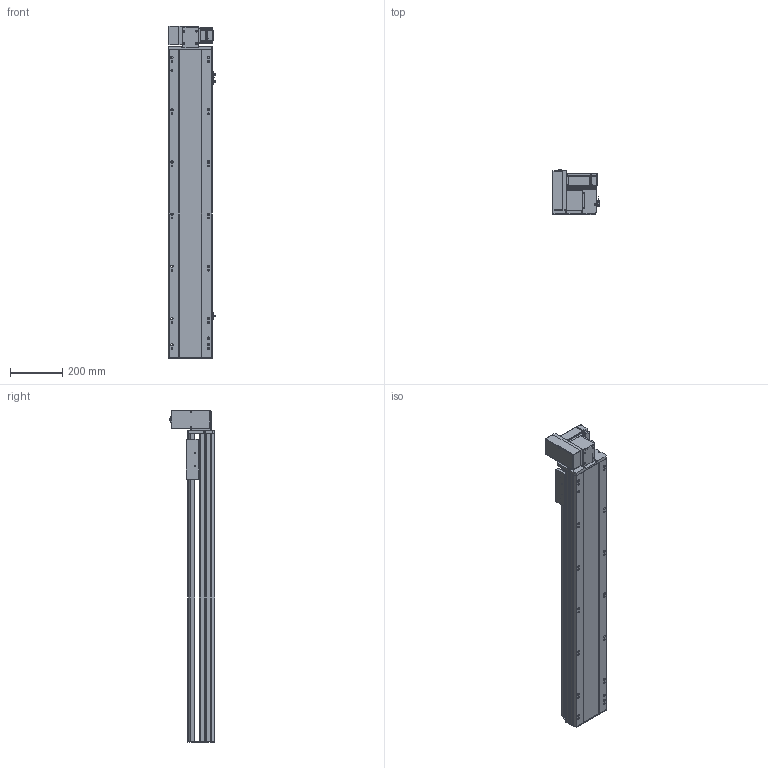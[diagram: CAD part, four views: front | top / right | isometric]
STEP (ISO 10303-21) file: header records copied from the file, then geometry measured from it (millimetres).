
FILE_DESCRIPTION (( 'STEP AP214' ), '1' );
FILE_NAME ('TPT17M-L40-900-LU-T40-C4.STEP', '2023-03-24T05:36:49', ( '' ), ( '' ), 'SwSTEP 2.0', 'SolidWorks 2020', '' );
FILE_SCHEMA (( 'AUTOMOTIVE_DESIGN' ));
Length unit declared in the file: millimetre
Products named in the file (11): 葩璃 TPT17-L-001 菁釱MZ-170-01^TPT17M-L40-LU-T40-C4; 葩璃 侂狟400W^TPT17M-L40-LU-T40-C4; 葩璃 pm-t65-672^TPT17M-L40-LU-T40-C4; hexagon head bolts-full thread gb_GB_FASTENER_BOLT_STBAB A M5X16-N; 葩璃 (2) TPT14-L-009 萇儂啣^TPT17M-L40-LU-T40-C4_400W; 葩璃 TPT17-L-007 々湍釱MZ-169x88^TPT17M-L40-LU-T40-C4_TPT17M; hexagon socket head cap screws gb_GB_FASTENER_SCREWS_HSHCS M3X6-N; hex nuts, style 1-grades ab gb_GB_FASTENER_NUT_SNAB1 M3-N; TPT17M-L40-900-LU-T40-C4; 葩璃 TPT17-L-005 賑釱MZ-170-07^TPT17M-L40-LU-T40-C4; 葩璃 TPT17-L-002 奻裔MZ-170-05^TPT17M-L40-LU-T40-C4
Assembly tree (22 placements, depth 2):
  TPT17M-L40-900-LU-T40-C4
    葩璃 TPT17-L-001 菁釱MZ-170-01^TPT17M-L40-LU-T40-C4
    葩璃 TPT17-L-002 奻裔MZ-170-05^TPT17M-L40-LU-T40-C4
    葩璃 TPT17-L-005 賑釱MZ-170-07^TPT17M-L40-LU-T40-C4
    葩璃 TPT17-L-007 々湍釱MZ-169x88^TPT17M-L40-LU-T40-C4_TPT17M
    葩璃 (2) TPT14-L-009 萇儂啣^TPT17M-L40-LU-T40-C4_400W
    葩璃 pm-t65-672^TPT17M-L40-LU-T40-C4  x3
    葩璃 侂狟400W^TPT17M-L40-LU-T40-C4
    hexagon socket head cap screws gb_GB_FASTENER_SCREWS_HSHCS M3X6-N  x6
    hex nuts, style 1-grades ab gb_GB_FASTENER_NUT_SNAB1 M3-N  x6
    hexagon head bolts-full thread gb_GB_FASTENER_BOLT_STBAB A M5X16-N
Bounding box: 183.7 x 173.15 x 1272 mm (x, y, z)
Volume: 13229639.8 mm3; surface area: 1410693.2 mm2
Topology: 30 solids, 30 shells, 1721 faces, 4418 edges, 2798 vertices
Faces by surface type: plane 921, cylinder 548, cone 214, bspline 26, torus 12
Entity records: 41561 total; most frequent: CARTESIAN_POINT 7964, DIRECTION 6805, ORIENTED_EDGE 6432, EDGE_CURVE 3216, AXIS2_PLACEMENT_3D 2402, VERTEX_POINT 2089, VECTOR 2001, LINE 2001
